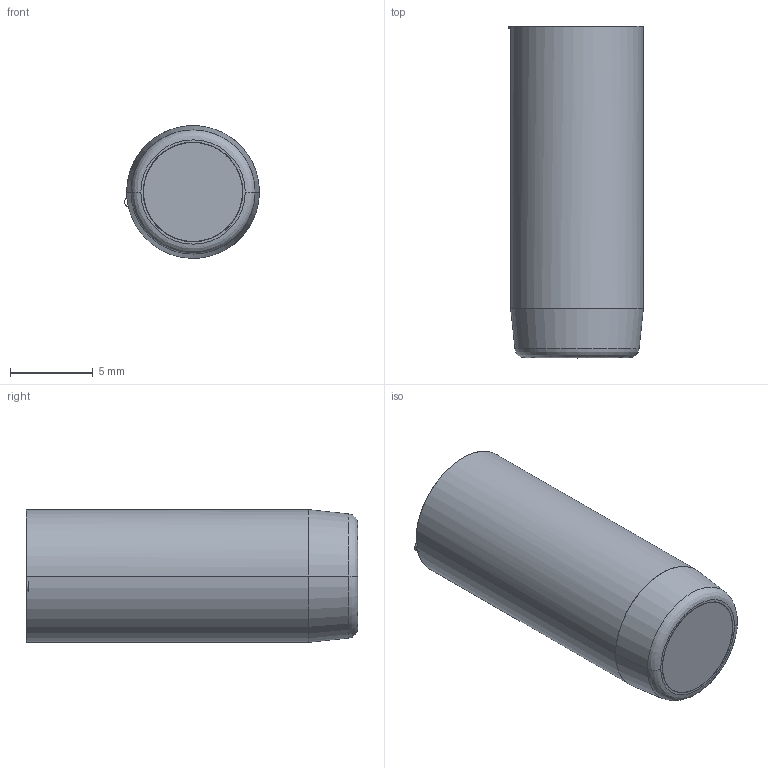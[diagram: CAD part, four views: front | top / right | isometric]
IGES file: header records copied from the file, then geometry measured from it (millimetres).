
Start section: START RECORD GO HERE.
Global section: file name: fa084712-21.igs; native system: DASSAULT SYSTEMES CATIA V5 R20 - www.3ds.com; preprocessor: CATIA Version 5 Release 20 ; author: Utente; organization: NB04-ASUS; date: 20201108.083730; units: millimetre
Bounding box: 8.12 x 20 x 8 mm (x, y, z)
Surface area: 1514.8 mm2 (no closed solid volume)
Topology: 0 solids, 0 shells, 430 faces, 2120 edges, 2113 vertices
Faces by surface type: revolution 193, plane 150, bspline 87
